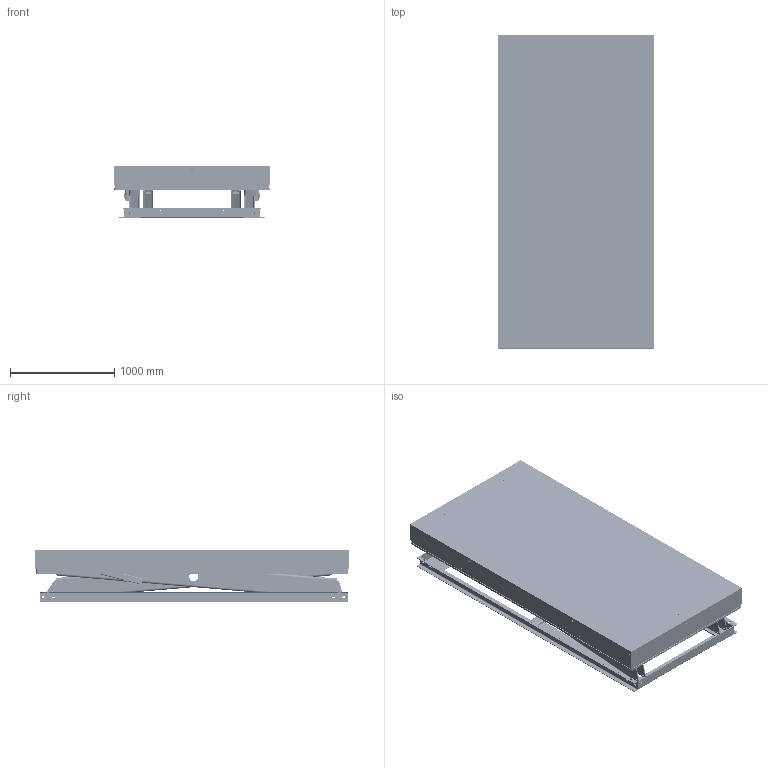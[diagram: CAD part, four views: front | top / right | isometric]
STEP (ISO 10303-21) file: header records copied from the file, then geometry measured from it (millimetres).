
FILE_DESCRIPTION(/* description */ ('TP 6000'),/* implementation_level */ '2;1');
FILE_NAME(/* name */ 'C:\Autodesk_VaultWork\Ritningar\614500_614999\614660_Collapsed.stp',/* time_stamp */ '2020-12-22T14:23:20+01:00',/* author */ ('johso'),/* organization */ (''),/* preprocessor_version */ 'ST-DEVELOPER v16.5',/* originating_system */ 'Autodesk Inventor 2017',/* authorisation */ '');
FILE_SCHEMA (('AUTOMOTIVE_DESIGN { 1 0 10303 214 3 1 1 }'));
Products named in the file (63): 614660.tmp; 514565; 514568-1; 515594-2; 515594-1; 514568-2; 600366; 41333-1300; 514568-3; 614601; 614597; 614598; ISO 4019 - 200x100x8 - 2880; 42430-50; 614600; 614599; ISO 4019 - 200x100x8 - 2880_1; 84098-1150; 614693; 614667; 614659; 614654; 614655; 614656; 42369-2986; 614685; 614658; 42565; 41333-2936; 41333-230; 614657; 41333-467; 45387; 80131; 42430-1386; 85955; 614612; 42289-2955; 42289-1455; 611843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
Assembly tree (139 placements, depth 5):
  614660.tmp
    514565
      514568-1
      515594-2
      515594-1
      42565  x2
      514568-2
      600366  x2
      41333-1300
      514568-3  x2
    614601
      614597
        614598  x2
          ISO 4019 - 200x100x8 - 2880
        42430-50  x2
        84098-1150
      614600
        614599  x2
          ISO 4019 - 200x100x8 - 2880_1
        84098-1150
        614693  x2
      614667
    614659
      614654
      614655  x2
      614656  x2
      42369-2986  x2
      614685
      614658  x2
      42565  x2
      41333-2936  x2
      41333-230  x3
      614657  x2
      41333-467  x4
      85955  x7
      45387  x12
      80131  x8
      42430-1386  x2
    614612
      42289-2955  x2
      42289-1455  x2
      43481  x8
      42330  x8
      611843  x4
      83552  x4
      33990  x4
        33991
        44283
        44280
        44279
        Compression-Spring-SF-TF1272-SS1774-04-Lesjofors-STEP
        ISO 7089 - 5
        84253
        44281
          44281-1
          ISO 2009 - M4 x 12
        84076
        83928
        44277
        44278
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Bounding box: 1500 x 3000 x 500 mm (x, y, z)
Volume: 134156553.3 mm3; surface area: 41042113 mm2
Topology: 189 solids, 189 shells, 8517 faces, 23115 edges, 15233 vertices
Faces by surface type: plane 4669, cylinder 2832, bspline 710, cone 206, torus 100
Full cylindrical faces by diameter (mm): 0.474 x4, 1 x8, 3 x8, 3.141 x8, 3.2 x8, 3.242 x8, 4 x28, 4.3 x8, 4.445 x4, 4.9 x4, 5 x16, 5.156 x4, 5.2 x12, 5.3 x8, 5.6 x4, 5.969 x4, 7.4 x8, 7.6 x8, 8 x28, 8.5 x8, 9.3 x4, 10 x12, 10.5 x8, 11 x4, 11.63 x8, 12 x14, 12.5 x6, 13 x8, 13.835 x7, 15 x2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
Entity records: 102349 total; most frequent: CARTESIAN_POINT 24325, ORIENTED_EDGE 15932, DIRECTION 15726, EDGE_CURVE 7965, VERTEX_POINT 5338, LINE 5312, VECTOR 5312, AXIS2_PLACEMENT_3D 5207
